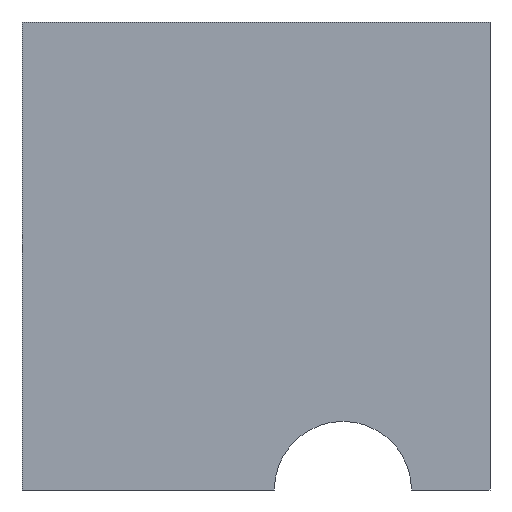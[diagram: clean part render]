
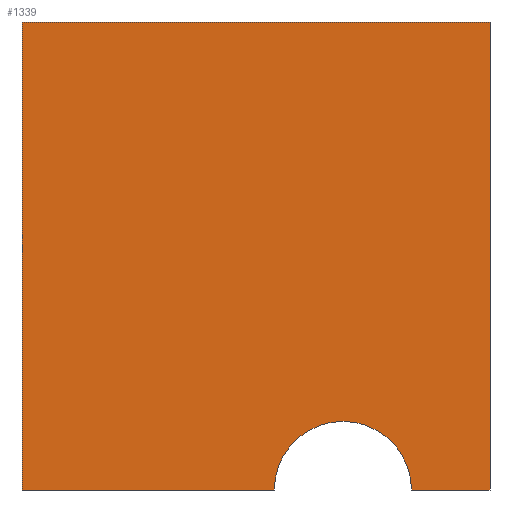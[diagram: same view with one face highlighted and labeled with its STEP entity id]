
A CAD part, front view. The second image highlights one B-rep face of the part: STEP entity #1339.
In plain terms, the highlighted planar face has unit normal (0, -1, 0).
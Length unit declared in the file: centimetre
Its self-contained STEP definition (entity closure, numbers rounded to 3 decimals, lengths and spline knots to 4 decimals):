
#55 = DIRECTION ( 'NONE',  ( 0., 1., 0. ) ) ;
#249 = DIRECTION ( 'NONE',  ( 0., 0., -1. ) ) ;
#267 = CARTESIAN_POINT ( 'NONE',  ( 0., 0., 1000. ) ) ;
#287 = VECTOR ( 'NONE', #1006, 100. ) ;
#288 = CARTESIAN_POINT ( 'NONE',  ( 0., 0., 0. ) ) ;
#314 = EDGE_CURVE ( 'NONE', #1360, #537, #2397, .T. ) ;
#414 = EDGE_CURVE ( 'NONE', #427, #2373, #2467, .T. ) ;
#427 = VERTEX_POINT ( 'NONE', #623 ) ;
#431 = CARTESIAN_POINT ( 'NONE',  ( 0., 0., 1000. ) ) ;
#490 = DIRECTION ( 'NONE',  ( 0., 1., 0. ) ) ;
#537 = VERTEX_POINT ( 'NONE', #883 ) ;
#604 = ORIENTED_EDGE ( 'NONE', *, *, #314, .T. ) ;
#623 = CARTESIAN_POINT ( 'NONE',  ( 832.3755, 0., 0. ) ) ;
#677 = VECTOR ( 'NONE', #249, 100. ) ;
#691 = ORIENTED_EDGE ( 'NONE', *, *, #814, .T. ) ;
#744 = ORIENTED_EDGE ( 'NONE', *, *, #1393, .T. ) ;
#753 = CARTESIAN_POINT ( 'NONE',  ( 0., 0., 0. ) ) ;
#806 = ORIENTED_EDGE ( 'NONE', *, *, #1157, .F. ) ;
#812 = LINE ( 'NONE', #431, #2268 ) ;
#814 = EDGE_CURVE ( 'NONE', #1180, #427, #1712, .T. ) ;
#871 = ORIENTED_EDGE ( 'NONE', *, *, #2220, .F. ) ;
#883 = CARTESIAN_POINT ( 'NONE',  ( 0., 0., 0. ) ) ;
#1006 = DIRECTION ( 'NONE',  ( 0., 0., -1. ) ) ;
#1064 = AXIS2_PLACEMENT_3D ( 'NONE', #2540, #490, #1479 ) ;
#1077 = PLANE ( 'NONE',  #2526 ) ;
#1157 = EDGE_CURVE ( 'NONE', #1360, #1729, #812, .T. ) ;
#1180 = VERTEX_POINT ( 'NONE', #2465 ) ;
#1222 = CARTESIAN_POINT ( 'NONE',  ( 0., 0., 1000. ) ) ;
#1251 = CIRCLE ( 'NONE', #1717, 146.6493 ) ;
#1273 = CARTESIAN_POINT ( 'NONE',  ( 685.7262, 0., 0. ) ) ;
#1339 = ADVANCED_FACE ( 'NONE', ( #2530 ), #1077, .F. ) ;
#1360 = VERTEX_POINT ( 'NONE', #1939 ) ;
#1393 = EDGE_CURVE ( 'NONE', #1540, #1180, #1251, .T. ) ;
#1441 = CARTESIAN_POINT ( 'NONE',  ( 1000., 0., 1000. ) ) ;
#1479 = DIRECTION ( 'NONE',  ( 0., 0., 1. ) ) ;
#1523 = DIRECTION ( 'NONE',  ( 0., 1., 0. ) ) ;
#1540 = VERTEX_POINT ( 'NONE', #1565 ) ;
#1565 = CARTESIAN_POINT ( 'NONE',  ( 539.0768, 0., 0. ) ) ;
#1578 = DIRECTION ( 'NONE',  ( 1., 0., 0. ) ) ;
#1624 = DIRECTION ( 'NONE',  ( 1., 0., 0. ) ) ;
#1637 = CARTESIAN_POINT ( 'NONE',  ( 1000., 0., 0. ) ) ;
#1659 = ORIENTED_EDGE ( 'NONE', *, *, #1669, .T. ) ;
#1669 = EDGE_CURVE ( 'NONE', #537, #1540, #1740, .T. ) ;
#1673 = VECTOR ( 'NONE', #2316, 100. ) ;
#1712 = CIRCLE ( 'NONE', #1064, 146.6493 ) ;
#1717 = AXIS2_PLACEMENT_3D ( 'NONE', #1273, #1523, #2338 ) ;
#1728 = DIRECTION ( 'NONE',  ( 0., 0., 1. ) ) ;
#1729 = VERTEX_POINT ( 'NONE', #2044 ) ;
#1740 = LINE ( 'NONE', #753, #2059 ) ;
#1758 = ORIENTED_EDGE ( 'NONE', *, *, #414, .T. ) ;
#1833 = LINE ( 'NONE', #1441, #677 ) ;
#1939 = CARTESIAN_POINT ( 'NONE',  ( 0., 0., 1000. ) ) ;
#2044 = CARTESIAN_POINT ( 'NONE',  ( 1000., 0., 1000. ) ) ;
#2059 = VECTOR ( 'NONE', #1578, 100. ) ;
#2220 = EDGE_CURVE ( 'NONE', #1729, #2373, #1833, .T. ) ;
#2268 = VECTOR ( 'NONE', #1624, 100. ) ;
#2316 = DIRECTION ( 'NONE',  ( 1., 0., 0. ) ) ;
#2338 = DIRECTION ( 'NONE',  ( 0., 0., 1. ) ) ;
#2360 = EDGE_LOOP ( 'NONE', ( #1659, #744, #691, #1758, #871, #806, #604 ) ) ;
#2373 = VERTEX_POINT ( 'NONE', #1637 ) ;
#2397 = LINE ( 'NONE', #1222, #287 ) ;
#2465 = CARTESIAN_POINT ( 'NONE',  ( 685.7262, 0., 146.6493 ) ) ;
#2467 = LINE ( 'NONE', #288, #1673 ) ;
#2526 = AXIS2_PLACEMENT_3D ( 'NONE', #267, #55, #1728 ) ;
#2530 = FACE_OUTER_BOUND ( 'NONE', #2360, .T. ) ;
#2540 = CARTESIAN_POINT ( 'NONE',  ( 685.7262, 0., 0. ) ) ;
